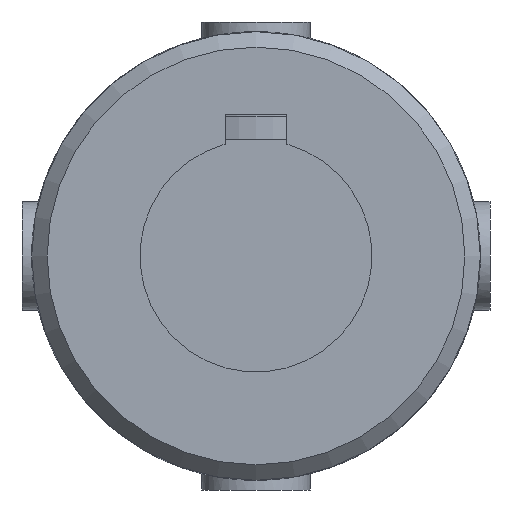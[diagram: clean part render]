
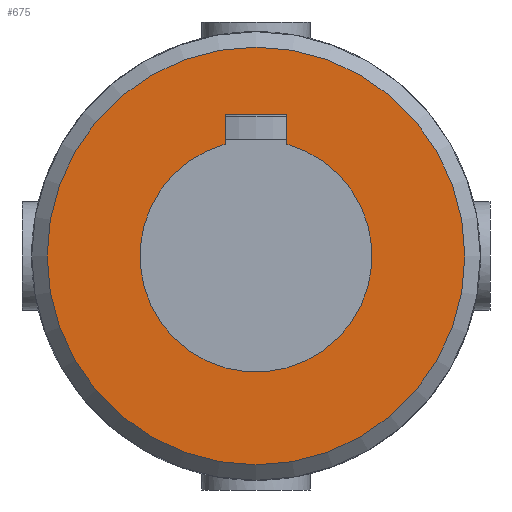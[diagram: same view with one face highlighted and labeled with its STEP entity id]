
A CAD part, left-side view. The second image highlights one B-rep face of the part: STEP entity #675.
In plain terms, the highlighted planar face has unit normal (-1, 0, 0) as drawn and (0, -1, 0) by its records, which use the part's own axes.
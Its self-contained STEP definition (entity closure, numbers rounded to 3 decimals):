
#81=LINE('',#1022,#114);
#85=LINE('',#1045,#118);
#87=LINE('',#1053,#120);
#114=VECTOR('',#840,3.843);
#118=VECTOR('',#852,8.);
#120=VECTOR('',#856,3.843);
#146=PLANE('',#736);
#169=FACE_BOUND('',#250,.T.);
#195=FACE_OUTER_BOUND('',#249,.T.);
#249=EDGE_LOOP('',(#546));
#250=EDGE_LOOP('',(#547,#548,#549,#550));
#283=CIRCLE('',#725,15.);
#287=CIRCLE('',#734,27.);
#321=VERTEX_POINT('',#1019);
#322=VERTEX_POINT('',#1021);
#325=VERTEX_POINT('',#1031);
#327=VERTEX_POINT('',#1043);
#332=VERTEX_POINT('',#1102);
#392=EDGE_CURVE('',#322,#321,#81,.T.);
#396=EDGE_CURVE('',#325,#322,#283,.T.);
#400=EDGE_CURVE('',#321,#327,#85,.T.);
#403=EDGE_CURVE('',#327,#325,#87,.T.);
#409=EDGE_CURVE('',#332,#332,#287,.T.);
#546=ORIENTED_EDGE('',*,*,#409,.F.);
#547=ORIENTED_EDGE('',*,*,#400,.T.);
#548=ORIENTED_EDGE('',*,*,#403,.T.);
#549=ORIENTED_EDGE('',*,*,#396,.T.);
#550=ORIENTED_EDGE('',*,*,#392,.T.);
#675=ADVANCED_FACE('',(#195,#169),#146,.F.);
#725=AXIS2_PLACEMENT_3D('',#1032,#846,#847);
#734=AXIS2_PLACEMENT_3D('',#1103,#869,#870);
#736=AXIS2_PLACEMENT_3D('',#1303,#877,#878);
#840=DIRECTION('',(0.,0.,-1.));
#846=DIRECTION('center_axis',(0.,1.,0.));
#847=DIRECTION('ref_axis',(-1.,0.,0.));
#852=DIRECTION('',(-1.,0.,0.));
#856=DIRECTION('',(0.,0.,1.));
#869=DIRECTION('center_axis',(0.,1.,0.));
#870=DIRECTION('ref_axis',(1.,0.,0.));
#877=DIRECTION('center_axis',(0.,1.,0.));
#878=DIRECTION('ref_axis',(0.,0.,1.));
#1019=CARTESIAN_POINT('',(4.,-75.5,-18.3));
#1021=CARTESIAN_POINT('',(4.,-75.5,-14.457));
#1022=CARTESIAN_POINT('',(4.,-75.5,-7.228));
#1031=CARTESIAN_POINT('',(-4.,-75.5,-14.457));
#1032=CARTESIAN_POINT('Origin',(0.,-75.5,0.));
#1043=CARTESIAN_POINT('',(-4.,-75.5,-18.3));
#1045=CARTESIAN_POINT('',(2.,-75.5,-18.3));
#1053=CARTESIAN_POINT('',(-4.,-75.5,-9.15));
#1102=CARTESIAN_POINT('',(-27.,-75.5,0.));
#1103=CARTESIAN_POINT('Origin',(0.,-75.5,0.));
#1303=CARTESIAN_POINT('Origin',(0.,-75.5,0.));
